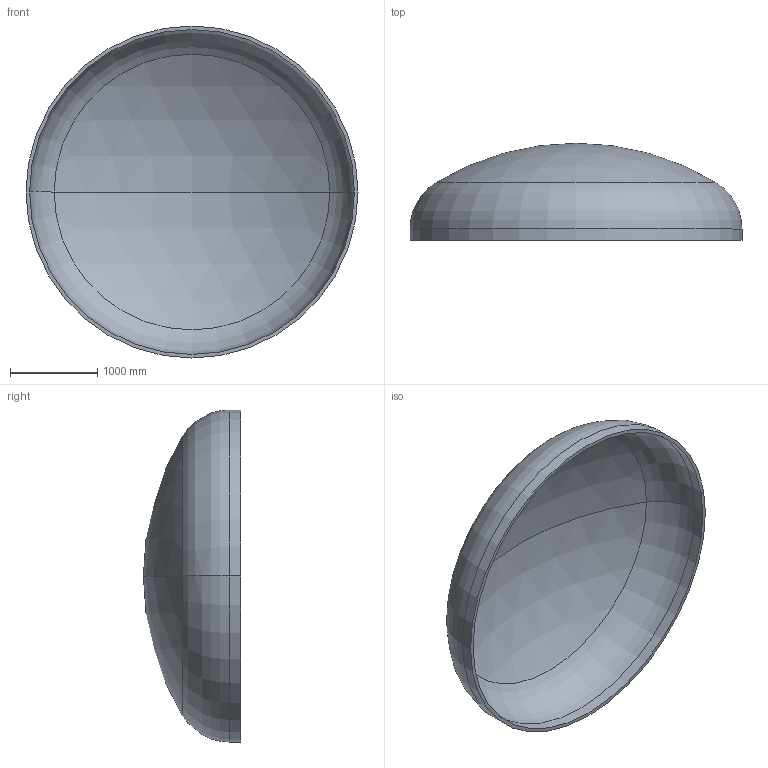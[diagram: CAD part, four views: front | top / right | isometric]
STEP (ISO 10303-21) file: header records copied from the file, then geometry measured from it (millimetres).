
FILE_DESCRIPTION (( 'STEP AP203' ), '1' );
FILE_NAME ('DIN 28013 Korbbogenform_-_Boden DIN 28013 - 3800 x 130 - I - s=41.step', '2016-07-01T21:23:23', ( '' ), ( '' ), 'SwSTEP 2.0', 'SolidWorks 2013', '' );
FILE_SCHEMA (( 'CONFIG_CONTROL_DESIGN' ));
Length unit declared in the file: millimetre
Products named in the file (1): DIN 28013 Korbbogenform_-_Boden DIN 28013 - 3800 x 130 - I - s=41
Bounding box: 3800 x 1112.44 x 3800 mm (x, y, z)
Volume: 697777522.1 mm3; surface area: 34525615.3 mm2
Topology: 1 solids, 1 shells, 13 faces, 24 edges, 14 vertices
Faces by surface type: torus 4, cylinder 4, sphere 4, plane 1
Entity records: 407 total; most frequent: DIRECTION 72, CARTESIAN_POINT 52, ORIENTED_EDGE 48, AXIS2_PLACEMENT_3D 34, EDGE_CURVE 24, CIRCLE 20, EDGE_LOOP 14, VERTEX_POINT 14
